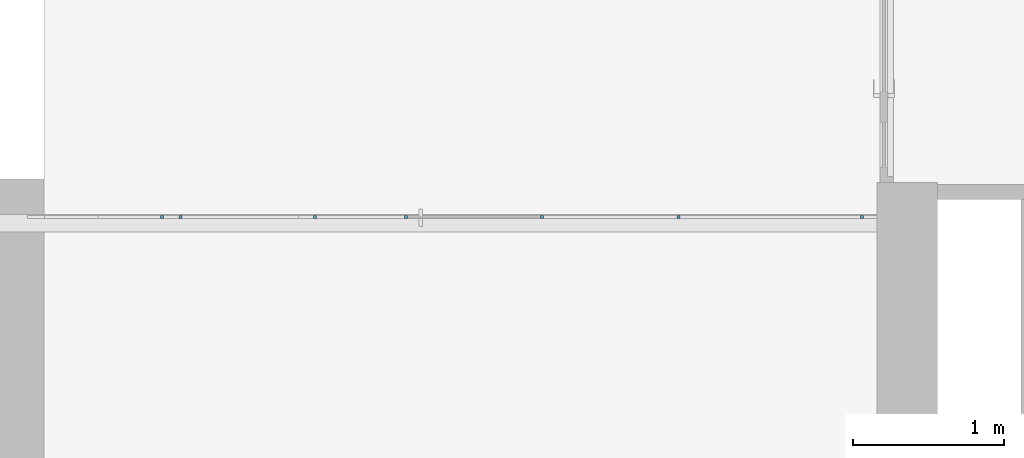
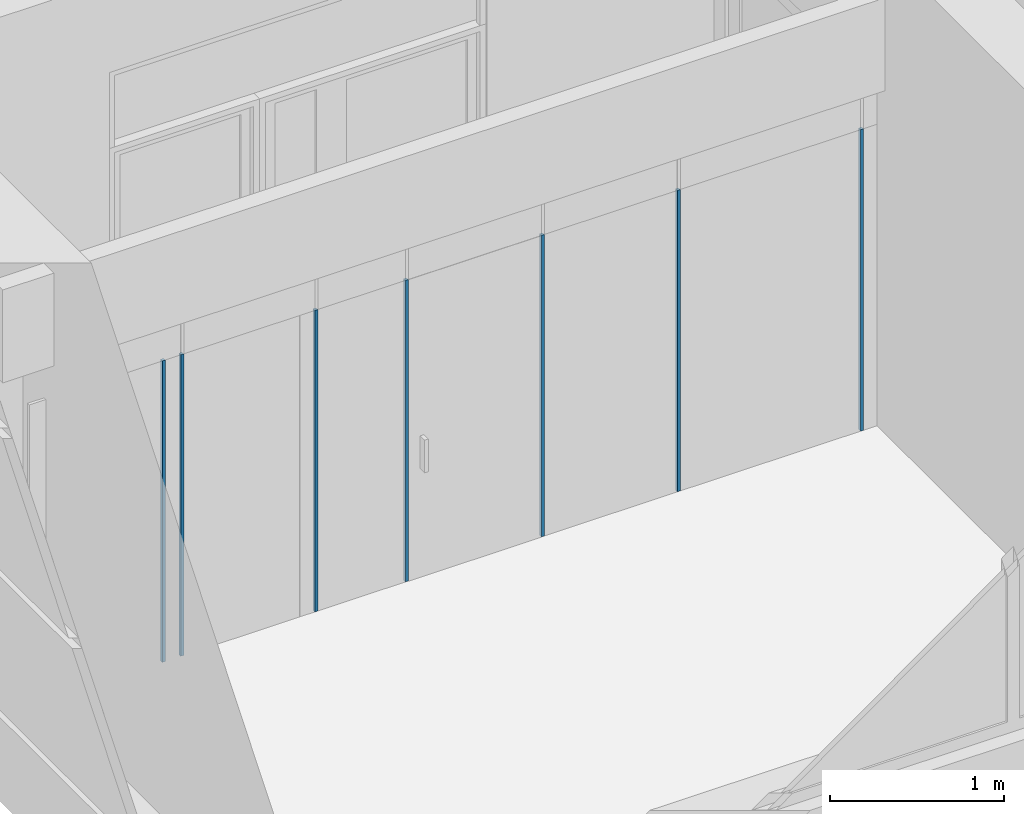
# One storey, part 1 of 66: 7 members, 1 element without a shape of its own.
"""IFC2X3 building model written with IfcOpenShell, lengths in millimetres."""

from ifc_helpers import new_model, entity, si_unit, converted_unit, derived_unit, direction, frame, origin, origin_2d_with_axis, place, context, subcontext, project, spatial, rectangle, extrude, source, transform, mapped, material, type_object, type_shapes, element, aggregate, save


model = new_model("IFC2X3")

# Units and contexts
model_context = context("Model", 3, precision=0.01, world=origin(), true_north=direction((6.12303176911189e-17, 1.0)))
body_context = subcontext(model_context, "Body", "Model", "MODEL_VIEW")
ifc_project = project(units=[si_unit("LENGTHUNIT", "METRE", prefix="MILLI"), si_unit("AREAUNIT", "SQUARE_METRE"), si_unit("VOLUMEUNIT", "CUBIC_METRE"), converted_unit("PLANEANGLEUNIT", "DEGREE", entity("IfcRatioMeasure", 0.0174532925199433), si_unit("PLANEANGLEUNIT", "RADIAN"), dimensions=[0, 0, 0, 0, 0, 0, 0]), si_unit("MASSUNIT", "GRAM", prefix="KILO"), derived_unit("MASSDENSITYUNIT", [(si_unit("MASSUNIT", "GRAM", prefix="KILO"), 1), (si_unit("LENGTHUNIT", "METRE"), -3)]), si_unit("TIMEUNIT", "SECOND"), si_unit("FREQUENCYUNIT", "HERTZ"), si_unit("THERMODYNAMICTEMPERATUREUNIT", "DEGREE_CELSIUS"), derived_unit("THERMALTRANSMITTANCEUNIT", [(si_unit("MASSUNIT", "GRAM", prefix="KILO"), 1), (si_unit("THERMODYNAMICTEMPERATUREUNIT", "KELVIN"), -1), (si_unit("TIMEUNIT", "SECOND"), -3)]), derived_unit("VOLUMETRICFLOWRATEUNIT", [(si_unit("LENGTHUNIT", "METRE"), 3), (si_unit("TIMEUNIT", "SECOND"), -1)]), si_unit("ELECTRICCURRENTUNIT", "AMPERE"), si_unit("ELECTRICVOLTAGEUNIT", "VOLT"), si_unit("POWERUNIT", "WATT"), si_unit("FORCEUNIT", "NEWTON", prefix="KILO"), si_unit("ILLUMINANCEUNIT", "LUX"), si_unit("LUMINOUSFLUXUNIT", "LUMEN"), si_unit("LUMINOUSINTENSITYUNIT", "CANDELA"), derived_unit("USERDEFINED", [(si_unit("MASSUNIT", "GRAM", prefix="KILO"), -1), (si_unit("LENGTHUNIT", "METRE"), -2), (si_unit("TIMEUNIT", "SECOND"), 3), (si_unit("LUMINOUSFLUXUNIT", "LUMEN"), 1)]), derived_unit("LINEARVELOCITYUNIT", [(si_unit("LENGTHUNIT", "METRE"), 1), (si_unit("TIMEUNIT", "SECOND"), -1)]), si_unit("PRESSUREUNIT", "PASCAL"), derived_unit("USERDEFINED", [(si_unit("LENGTHUNIT", "METRE"), -2), (si_unit("MASSUNIT", "GRAM", prefix="KILO"), 1), (si_unit("TIMEUNIT", "SECOND"), -2)])], contexts=[model_context])

# Site, building, storey
site_placement = place(None, frame((-151.875543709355, 2715.0, 0.0)))
site = spatial("IfcSite", under=ifc_project, at=site_placement, Name="Surface", CompositionType="ELEMENT")
building_placement = place(site_placement, origin())
building = spatial("IfcBuilding", under=site, at=building_placement, CompositionType="ELEMENT")
storey_placement = place(building_placement, frame((0.0, 0.0, 3350.0)))
storey = spatial("IfcBuildingStorey", under=building, at=storey_placement, Name="2 korrus", CompositionType="ELEMENT", Elevation=3350.00000000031)

# Curtain wall, members
curtain_wall_type = type_object("IfcCurtainWallType", Name="Curtain Wall:Klaassein KLS-07", PredefinedType="NOTDEFINED")
curtain_wall_placement = place(storey_placement, frame((0.0, 0.0, -3350.0)))
curtain_wall = element("IfcCurtainWall", 1, at=curtain_wall_placement, inside=storey, type_object=curtain_wall_type, Name="Curtain Wall:Klaassein KLS-07", ObjectType="Curtain Wall:Klaassein KLS-07")
ifc_material = material(Name="__Uks_hele tamm")
member_type_1 = type_object("IfcMemberType", Name="20 x 20mm", PredefinedType="MEMBER")
shared_shape_1 = source(origin(), body_context, "Body", "SweptSolid", [
    extrude(rectangle(XDim=20.0, YDim=20.0, at=origin_2d_with_axis()), frame((0.0, 0.0, -2110.0), z_axis=(0.0, 0.0, 1.0), x_axis=(0.0, -1.0, 0.0)), (0.0, 0.0, 1.0), 2110.0),
])
type_shapes(member_type_1, [shared_shape_1])
member_1_placement = place(storey_placement, frame((1240.37554580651, 4150.48849455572, 0.0), z_axis=(0.0, 0.0, -1.0), x_axis=(1.0, 0.0, 0.0)))
member_1 = element("IfcMember", 2, at=member_1_placement, type_object=member_type_1, material=ifc_material, Name="Rectangular Mullion:20 x 20mm", ObjectType="20 x 20mm", context=body_context, shape_type="MappedRepresentation", body=[
    mapped(shared_shape_1, transform((0.0, 0.0, 0.0), scale=1.0)),
])
member_type_2 = type_object("IfcMemberType", Name="20 x 20mm", PredefinedType="MEMBER")
shared_shape_2 = source(origin(), body_context, "Body", "SweptSolid", [
    extrude(rectangle(XDim=20.0, YDim=20.0, at=origin_2d_with_axis()), frame((0.0, 0.0, -2110.0), z_axis=(0.0, 0.0, 1.0), x_axis=(0.0, -1.0, 0.0)), (0.0, 0.0, 1.0), 2110.0),
])
type_shapes(member_type_2, [shared_shape_2])
member_2_placement = place(storey_placement, frame((1362.4935297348, 4150.48849455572, 0.0), z_axis=(0.0, 0.0, -1.0), x_axis=(1.0, 0.0, 0.0)))
member_2 = element("IfcMember", 3, at=member_2_placement, type_object=member_type_2, material=ifc_material, Name="Rectangular Mullion:20 x 20mm", ObjectType="20 x 20mm", context=body_context, shape_type="MappedRepresentation", body=[
    mapped(shared_shape_2, transform((0.0, 0.0, 0.0), scale=1.0)),
])
member_3_placement = place(storey_placement, frame((2249.87554580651, 4150.48849455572, 0.0), z_axis=(0.0, 0.0, -1.0), x_axis=(1.0, 0.0, 0.0)))
member_3 = element("IfcMember", 4, at=member_3_placement, type_object=member_type_2, material=ifc_material, Name="Rectangular Mullion:20 x 20mm", ObjectType="20 x 20mm", context=body_context, shape_type="MappedRepresentation", body=[
    mapped(shared_shape_2, transform((0.0, 0.0, 0.0), scale=1.0)),
])
member_4_placement = place(storey_placement, frame((2849.87554580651, 4150.48849455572, 0.0), z_axis=(0.0, 0.0, -1.0), x_axis=(1.0, 0.0, 0.0)))
member_4 = element("IfcMember", 5, at=member_4_placement, type_object=member_type_2, material=ifc_material, Name="Rectangular Mullion:20 x 20mm", ObjectType="20 x 20mm", context=body_context, shape_type="MappedRepresentation", body=[
    mapped(shared_shape_2, transform((0.0, 0.0, 0.0), scale=1.0)),
])
member_5_placement = place(storey_placement, frame((3749.87554580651, 4150.48849455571, 0.0), z_axis=(0.0, 0.0, -1.0), x_axis=(1.0, 0.0, 0.0)))
member_5 = element("IfcMember", 6, at=member_5_placement, type_object=member_type_2, material=ifc_material, Name="Rectangular Mullion:20 x 20mm", ObjectType="20 x 20mm", context=body_context, shape_type="MappedRepresentation", body=[
    mapped(shared_shape_2, transform((0.0, 0.0, 0.0), scale=1.0)),
])
member_6_placement = place(storey_placement, frame((4649.87554580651, 4150.48849455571, 0.0), z_axis=(0.0, 0.0, -1.0), x_axis=(1.0, 0.0, 0.0)))
member_6 = element("IfcMember", 7, at=member_6_placement, type_object=member_type_2, material=ifc_material, Name="Rectangular Mullion:20 x 20mm", ObjectType="20 x 20mm", context=body_context, shape_type="MappedRepresentation", body=[
    mapped(shared_shape_2, transform((0.0, 0.0, 0.0), scale=1.0)),
])
member_7_placement = place(storey_placement, frame((5862.4935297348, 4150.48849455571, 0.0), z_axis=(0.0, 0.0, -1.0), x_axis=(1.0, 0.0, 0.0)))
member_7 = element("IfcMember", 8, at=member_7_placement, type_object=member_type_2, material=ifc_material, Name="Rectangular Mullion:20 x 20mm", ObjectType="20 x 20mm", context=body_context, shape_type="MappedRepresentation", body=[
    mapped(shared_shape_2, transform((0.0, 0.0, 0.0), scale=1.0)),
])
aggregate(curtain_wall, [member_1, member_2, member_3, member_4, member_5, member_6, member_7])

save(model, "model.ifc")
